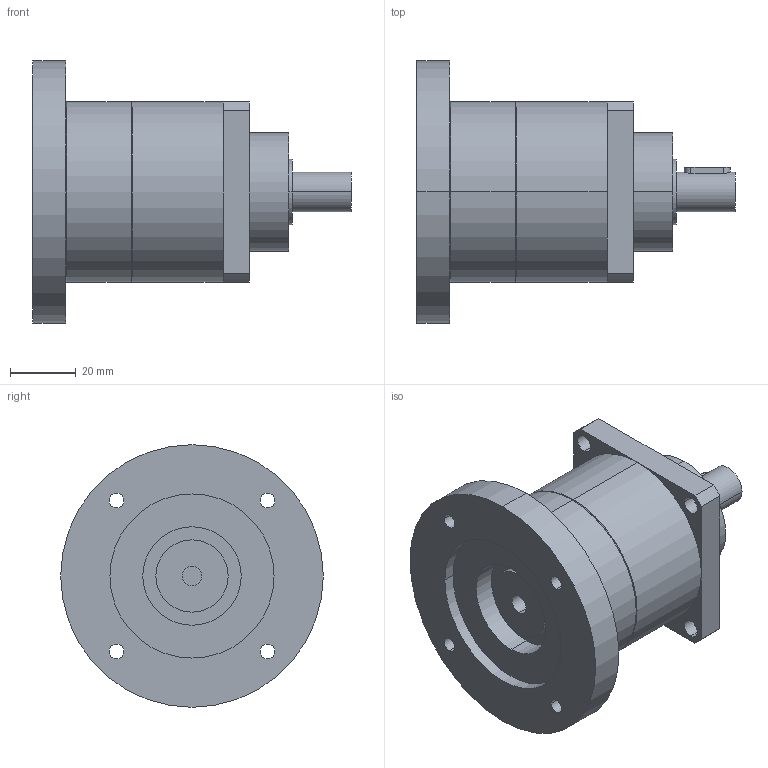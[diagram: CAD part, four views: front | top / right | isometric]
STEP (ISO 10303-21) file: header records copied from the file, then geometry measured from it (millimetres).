
FILE_DESCRIPTION(('CoCreate Modeling STEP Export'),'2;1');
FILE_NAME('GPT55_ig-3-4-5-7-10_12_B5A_6_P13.stp','2014-08-25T14:32:43',(''),(''),'CoCreate Modeling STEP processor for AP214 (Solid Model)','CoCreate Modeling 16.00C 25-Feb-2009 (C) Parametric Technology GmbH','');
FILE_SCHEMA(('AUTOMOTIVE_DESIGN { 1 0 10303 214 1 1 1 1 }'));
Length unit declared in the file: millimetre
Products named in the file (2): GPT55_ig-3-4-5-7-10_12_B5A_6_P13
Assembly tree (1 placements, depth 2):
  GPT55_ig-3-4-5-7-10_12_B5A_6_P13
    GPT55_ig-3-4-5-7-10_12_B5A_6_P13
Bounding box: 97 x 80 x 80 mm (x, y, z)
Volume: 190523.4 mm3; surface area: 28868.8 mm2
Topology: 1 solids, 1 shells, 71 faces, 183 edges, 124 vertices
Faces by surface type: cylinder 44, plane 23, cone 4
Entity records: 2283 total; most frequent: CARTESIAN_POINT 668, ORIENTED_EDGE 366, DIRECTION 278, EDGE_CURVE 183, VERTEX_POINT 124, AXIS2_PLACEMENT_3D 104, EDGE_LOOP 97, FACE_OUTER_BOUND 71
